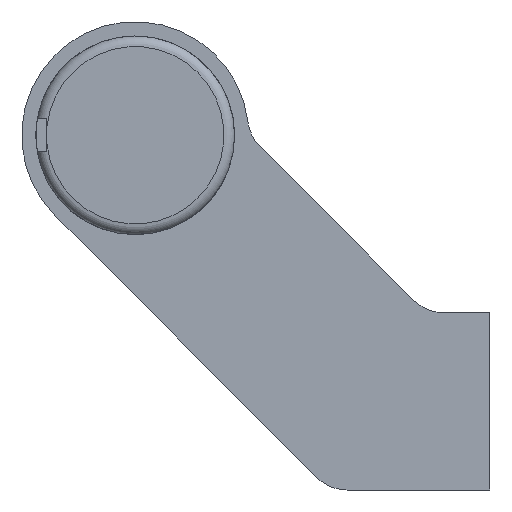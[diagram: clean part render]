
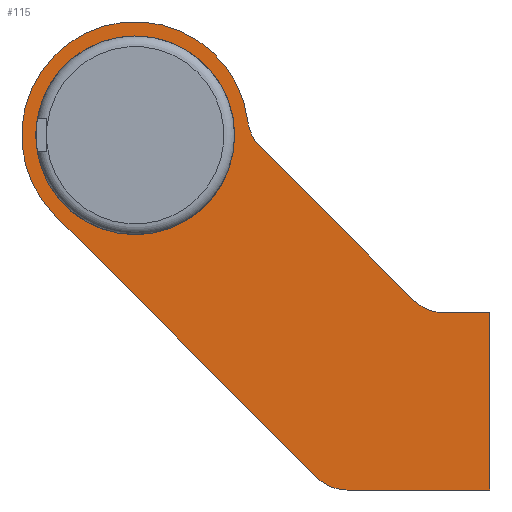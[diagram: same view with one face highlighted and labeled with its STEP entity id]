
A CAD part, left-side view. The second image highlights one B-rep face of the part: STEP entity #115.
In plain terms, the highlighted planar face has unit normal (-1, 0, 0).
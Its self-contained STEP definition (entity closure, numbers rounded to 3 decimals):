
#115 = ADVANCED_FACE( '', ( #215, #216 ), #217, .F. );
#215 = FACE_BOUND( '', #328, .T. );
#216 = FACE_OUTER_BOUND( '', #329, .T. );
#217 = PLANE( '', #330 );
#328 = EDGE_LOOP( '', ( #629 ) );
#329 = EDGE_LOOP( '', ( #630, #631, #632, #633, #634, #635, #636, #637, #638 ) );
#330 = AXIS2_PLACEMENT_3D( '', #639, #640, #641 );
#629 = ORIENTED_EDGE( '', *, *, #755, .T. );
#630 = ORIENTED_EDGE( '', *, *, #741, .F. );
#631 = ORIENTED_EDGE( '', *, *, #719, .F. );
#632 = ORIENTED_EDGE( '', *, *, #715, .F. );
#633 = ORIENTED_EDGE( '', *, *, #723, .F. );
#634 = ORIENTED_EDGE( '', *, *, #726, .F. );
#635 = ORIENTED_EDGE( '', *, *, #729, .T. );
#636 = ORIENTED_EDGE( '', *, *, #732, .F. );
#637 = ORIENTED_EDGE( '', *, *, #735, .T. );
#638 = ORIENTED_EDGE( '', *, *, #738, .F. );
#639 = CARTESIAN_POINT( '', ( -257., 50., 37.5 ) );
#640 = DIRECTION( '', ( 1., 0., 0. ) );
#641 = DIRECTION( '', ( 0., 0., -1. ) );
#715 = EDGE_CURVE( '', #840, #841, #842, .T. );
#719 = EDGE_CURVE( '', #841, #848, #849, .T. );
#723 = EDGE_CURVE( '', #855, #840, #856, .T. );
#726 = EDGE_CURVE( '', #860, #855, #861, .T. );
#729 = EDGE_CURVE( '', #860, #865, #866, .T. );
#732 = EDGE_CURVE( '', #870, #865, #871, .T. );
#735 = EDGE_CURVE( '', #870, #875, #876, .T. );
#738 = EDGE_CURVE( '', #880, #875, #881, .T. );
#741 = EDGE_CURVE( '', #848, #880, #885, .T. );
#755 = EDGE_CURVE( '', #907, #907, #908, .T. );
#840 = VERTEX_POINT( '', #1083 );
#841 = VERTEX_POINT( '', #1084 );
#842 = LINE( '', #1085, #1086 );
#848 = VERTEX_POINT( '', #1095 );
#849 = CIRCLE( '', #1096, 6. );
#855 = VERTEX_POINT( '', #1103 );
#856 = LINE( '', #1104, #1105 );
#860 = VERTEX_POINT( '', #1111 );
#861 = LINE( '', #1112, #1113 );
#865 = VERTEX_POINT( '', #1119 );
#866 = CIRCLE( '', #1120, 6. );
#870 = VERTEX_POINT( '', #1125 );
#871 = LINE( '', #1126, #1127 );
#875 = VERTEX_POINT( '', #1133 );
#876 = CIRCLE( '', #1134, 6. );
#880 = VERTEX_POINT( '', #1139 );
#881 = CIRCLE( '', #1140, 16. );
#885 = LINE( '', #1145, #1146 );
#907 = VERTEX_POINT( '', #1174 );
#908 = CIRCLE( '', #1175, 14. );
#1083 = CARTESIAN_POINT( '', ( -257., 0., -12.5 ) );
#1084 = CARTESIAN_POINT( '', ( -257., 20.142, -12.5 ) );
#1085 = CARTESIAN_POINT( '', ( -257., 0., -12.5 ) );
#1086 = VECTOR( '', #1265, 1000. );
#1095 = CARTESIAN_POINT( '', ( -257., 24.385, -10.743 ) );
#1096 = AXIS2_PLACEMENT_3D( '', #1269, #1270, #1271 );
#1103 = CARTESIAN_POINT( '', ( -257., 0., 12.5 ) );
#1104 = CARTESIAN_POINT( '', ( -257., 0., 12.5 ) );
#1105 = VECTOR( '', #1279, 1000. );
#1111 = CARTESIAN_POINT( '', ( -257., 6.515, 12.5 ) );
#1112 = CARTESIAN_POINT( '', ( -257., 6.515, 12.5 ) );
#1113 = VECTOR( '', #1282, 1000. );
#1119 = CARTESIAN_POINT( '', ( -257., 10.757, 14.257 ) );
#1120 = AXIS2_PLACEMENT_3D( '', #1285, #1286, #1287 );
#1125 = CARTESIAN_POINT( '', ( -257., 32.402, 35.902 ) );
#1126 = CARTESIAN_POINT( '', ( -257., 32.402, 35.902 ) );
#1127 = VECTOR( '', #1292, 1000. );
#1133 = CARTESIAN_POINT( '', ( -257., 34.116, 39.424 ) );
#1134 = AXIS2_PLACEMENT_3D( '', #1295, #1296, #1297 );
#1139 = CARTESIAN_POINT( '', ( -257., 61.314, 26.186 ) );
#1140 = AXIS2_PLACEMENT_3D( '', #1302, #1303, #1304 );
#1145 = CARTESIAN_POINT( '', ( -257., 24.385, -10.743 ) );
#1146 = VECTOR( '', #1309, 1000. );
#1174 = CARTESIAN_POINT( '', ( -257., 50., 23.5 ) );
#1175 = AXIS2_PLACEMENT_3D( '', #1337, #1338, #1339 );
#1265 = DIRECTION( '', ( 0., 1., 0. ) );
#1269 = CARTESIAN_POINT( '', ( -257., 20.142, -6.5 ) );
#1270 = DIRECTION( '', ( 1., 0., 0. ) );
#1271 = DIRECTION( '', ( 0., 0., -1. ) );
#1279 = DIRECTION( '', ( 0., 0., -1. ) );
#1282 = DIRECTION( '', ( 0., -1., 0. ) );
#1285 = CARTESIAN_POINT( '', ( -257., 6.515, 18.5 ) );
#1286 = DIRECTION( '', ( 1., 0., 0. ) );
#1287 = DIRECTION( '', ( 0., 0., -1. ) );
#1292 = DIRECTION( '', ( 0., -0.707, -0.707 ) );
#1295 = CARTESIAN_POINT( '', ( -257., 28.16, 40.145 ) );
#1296 = DIRECTION( '', ( 1., 0., 0. ) );
#1297 = DIRECTION( '', ( 0., 0., -1. ) );
#1302 = CARTESIAN_POINT( '', ( -257., 50., 37.5 ) );
#1303 = DIRECTION( '', ( 1., 0., 0. ) );
#1304 = DIRECTION( '', ( 0., 0., -1. ) );
#1309 = DIRECTION( '', ( 0., 0.707, 0.707 ) );
#1337 = CARTESIAN_POINT( '', ( -257., 50., 37.5 ) );
#1338 = DIRECTION( '', ( 1., 0., 0. ) );
#1339 = DIRECTION( '', ( 0., 0., -1. ) );
